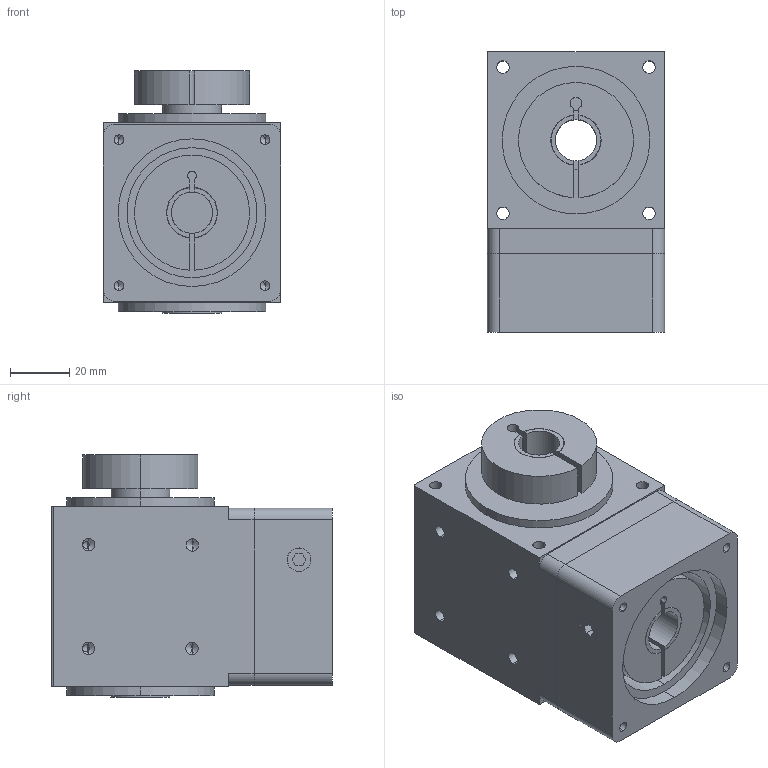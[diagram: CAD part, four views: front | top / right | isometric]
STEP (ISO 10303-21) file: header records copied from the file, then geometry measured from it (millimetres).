
FILE_DESCRIPTION (( 'STEP AP203' ), '1' );
FILE_NAME ('PLT60-C1Ä£ÐÍ£¨14-30 50-3 4-4.5-70).STEP', '2021-11-23T06:30:03', ( '' ), ( '' ), 'SwSTEP 2.0', 'SolidWorks 2016', '' );
FILE_SCHEMA (( 'CONFIG_CONTROL_DESIGN' ));
Length unit declared in the file: millimetre
Products named in the file (1): PLT60-C1模型（14-30 50-3 4-4.5-70)
Bounding box: 60 x 95 x 82 mm (x, y, z)
Volume: 333001.4 mm3; surface area: 59023.2 mm2
Topology: 2 solids, 2 shells, 206 faces, 530 edges, 328 vertices
Faces by surface type: cylinder 102, plane 68, cone 36
Entity records: 6383 total; most frequent: CARTESIAN_POINT 1215, DIRECTION 1124, ORIENTED_EDGE 1012, EDGE_CURVE 506, AXIS2_PLACEMENT_3D 431, VERTEX_POINT 328, VECTOR 262, LINE 262
